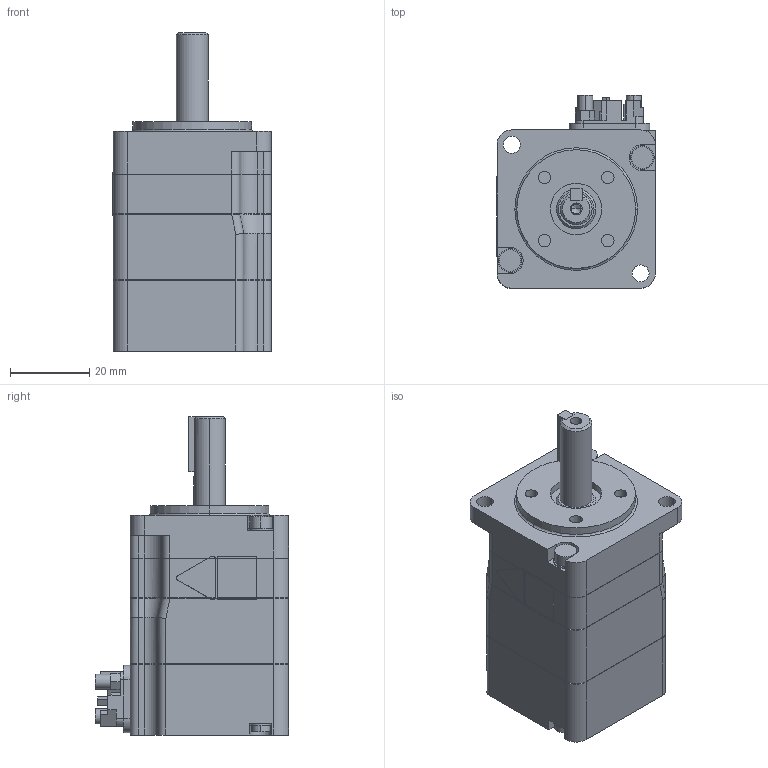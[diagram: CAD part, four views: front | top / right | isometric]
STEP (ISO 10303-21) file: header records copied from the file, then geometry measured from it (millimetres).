
FILE_DESCRIPTION( (''), '2;1');
FILE_NAME ('sgmxa-a5au61a_.stp','2022-03-17T15:26:13',(''),(''),'spGate 15.6.6','','');
FILE_SCHEMA (('AUTOMOTIVE_DESIGN'));
Length unit declared in the file: millimetre
Products named in the file (3): Assembly; sgmxa-a5au61a_-prt0; sgmxa-a5au61a_-prt1
Assembly tree (2 placements, depth 2):
  Assembly
    sgmxa-a5au61a_-prt0
    sgmxa-a5au61a_-prt1
Bounding box: 40.1 x 48.8 x 80.6 mm (x, y, z)
Volume: 86055.5 mm3; surface area: 15258.8 mm2
Topology: 2 solids, 2 shells, 358 faces, 949 edges, 622 vertices
Faces by surface type: plane 214, cylinder 129, bspline 15
Entity records: 18970 total; most frequent: CARTESIAN_POINT 2478, ORIENTED_EDGE 1894, DIRECTION 1804, COLOUR_RGB 1307, PRESENTATION_STYLE_ASSIGNMENT 1307, STYLED_ITEM 1307, EDGE_CURVE 947, DRAUGHTING_PRE_DEFINED_CURVE_FONT 947
